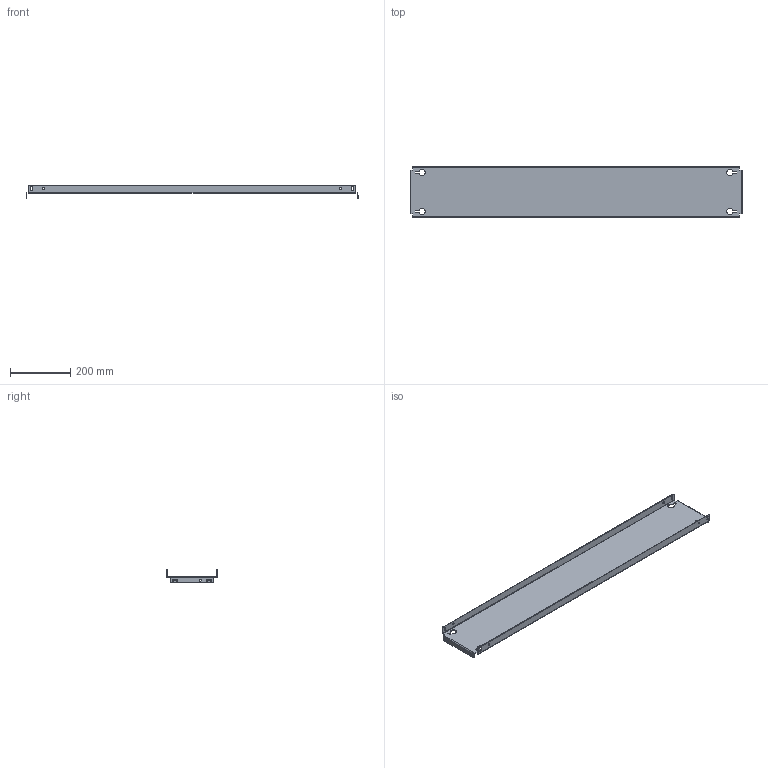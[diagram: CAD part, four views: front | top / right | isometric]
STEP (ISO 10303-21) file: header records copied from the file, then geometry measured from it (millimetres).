
FILE_DESCRIPTION (( 'STEP AP203' ), '1' );
FILE_NAME ('R5PPS2012.STEP', '2021-12-20T07:08:15', ( '' ), ( '' ), 'SwSTEP 2.0', 'SolidWorks 2020', '' );
FILE_SCHEMA (( 'CONFIG_CONTROL_DESIGN' ));
Length unit declared in the file: millimetre
Products named in the file (1): R5PPS2012
Bounding box: 1100 x 169 x 43.5 mm (x, y, z)
Volume: 594428.5 mm3; surface area: 484279.3 mm2
Topology: 1 solids, 1 shells, 136 faces, 370 edges, 236 vertices
Faces by surface type: cylinder 78, plane 58
Entity records: 4479 total; most frequent: DIRECTION 800, CARTESIAN_POINT 743, ORIENTED_EDGE 740, EDGE_CURVE 370, AXIS2_PLACEMENT_3D 293, VERTEX_POINT 236, LINE 214, VECTOR 214
